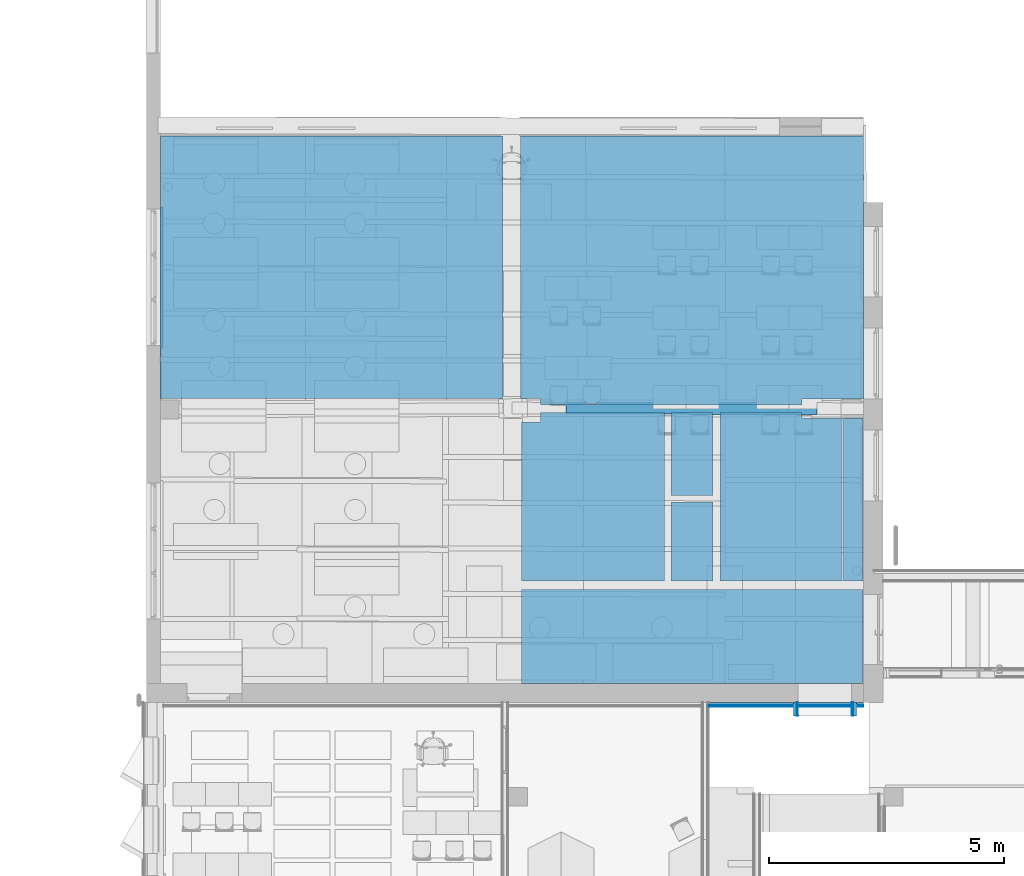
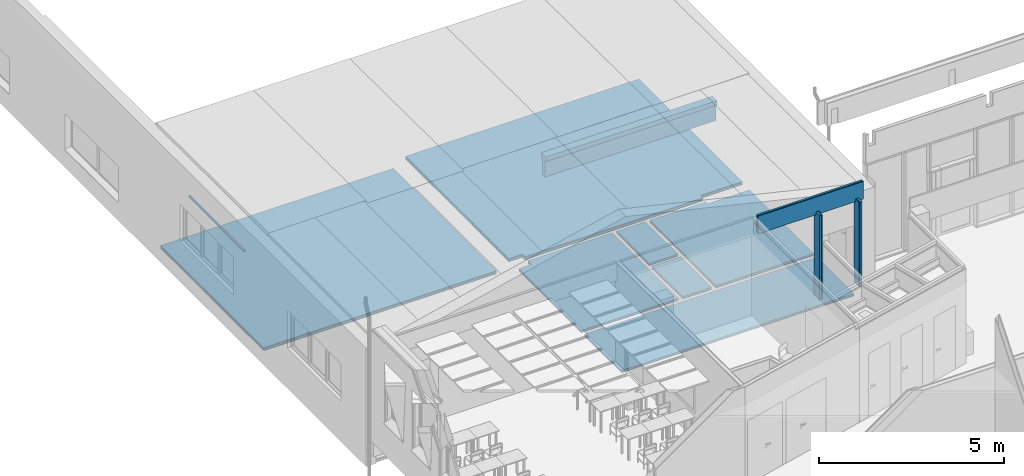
# One storey, part 61 of 153: 21 building element parts, 1 discrete accessory, 7 elements without a shape of their own.
"""IFC2X3 building model written with IfcOpenShell, lengths in millimetres."""

from ifc_helpers import new_model, entity, si_unit, converted_unit, derived_unit, money_unit, direction, frame, origin_with_axes, place, context, subcontext, project, spatial, faceted_brep, material, type_object, element, aggregate, save


model = new_model("IFC2X3")

# Units and contexts
model_context = context("Model", 3, precision=0.01, world=origin_with_axes(), true_north=direction((0.0, 1.0)))
body_context = subcontext(model_context, "Body", "Model", "MODEL_VIEW")
ifc_project = project(units=[si_unit("LENGTHUNIT", "METRE", prefix="MILLI"), si_unit("AREAUNIT", "SQUARE_METRE"), si_unit("VOLUMEUNIT", "CUBIC_METRE"), converted_unit("PLANEANGLEUNIT", "DEGREE", entity("IfcPlaneAngleMeasure", 0.0174532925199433), si_unit("PLANEANGLEUNIT", "RADIAN"), dimensions=[0, 0, 0, 0, 0, 0, 0]), money_unit("EUR"), converted_unit("TIMEUNIT", "Year", entity("IfcTimeMeasure", 31557600.0), si_unit("TIMEUNIT", "SECOND"), dimensions=[0, 0, 1, 0, 0, 0, 0]), si_unit("MASSUNIT", "GRAM", prefix="KILO"), si_unit("THERMODYNAMICTEMPERATUREUNIT", "DEGREE_CELSIUS"), si_unit("LUMINOUSINTENSITYUNIT", "LUMEN"), si_unit("ENERGYUNIT", "JOULE", prefix="MEGA"), derived_unit("THERMALCONDUCTANCEUNIT", [(si_unit("POWERUNIT", "WATT"), 1), (si_unit("LENGTHUNIT", "METRE"), -1), (si_unit("THERMODYNAMICTEMPERATUREUNIT", "KELVIN"), -1)]), derived_unit("SPECIFICHEATCAPACITYUNIT", [(si_unit("ENERGYUNIT", "JOULE"), 1), (si_unit("MASSUNIT", "GRAM", prefix="KILO"), -1), (si_unit("THERMODYNAMICTEMPERATUREUNIT", "KELVIN"), -1)]), derived_unit("MASSDENSITYUNIT", [(si_unit("MASSUNIT", "GRAM", prefix="KILO"), 1), (si_unit("VOLUMEUNIT", "CUBIC_METRE"), -1)])], contexts=[model_context])

# Site, building, storey
site_placement = place(None, frame((0.0, 0.0, 8650.0), z_axis=(0.0, 0.0, 1.0), x_axis=(1.0, 0.0, 0.0)))
site = spatial("IfcSite", under=ifc_project, at=site_placement, Name="43301:001:0844", CompositionType="ELEMENT")
building_placement = place(site_placement, origin_with_axes())
building = spatial("IfcBuilding", under=site, at=building_placement, Name="Kuressaare Ametikooli tuulikute mehaanikute õppekorpus", CompositionType="ELEMENT")
storey_placement = place(building_placement, frame((0.0, 0.0, 4100.0), z_axis=(0.0, 0.0, 1.0), x_axis=(1.0, 0.0, 0.0)))
storey = spatial("IfcBuildingStorey", under=building, at=storey_placement, Name="2.korrus", CompositionType="ELEMENT", Elevation=4100.0)

# Discrete accessory
ifc_material_1 = material(Name="GENEERILINE - KONSTRUKTRIOON")
discrete_accessory_type = type_object("IfcDiscreteAccessoryType", Name="GENEERILINE - KONSTRUKTRIOON 50")
discrete_accessory_placement = place(storey_placement, frame((88258.75644683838, 36335.89501805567, 1560.0), z_axis=(0.0, 0.0, 1.0), x_axis=(1.0, 0.0, 0.0)))
element("IfcDiscreteAccessory", 1, at=discrete_accessory_placement, inside=storey, type_object=discrete_accessory_type, material=ifc_material_1, Name="RK1", context=body_context, shape_type="Brep", body=[
    faceted_brep([(0.0, 0.0, 49.99999999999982), (0.0, 0.0, 0.0), (0.0, -3000.0, 0.0), (0.0, -3000.0, 49.99999999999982), (49.99999999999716, 0.0, 49.99999999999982), (49.99999999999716, 0.0, 0.0), (49.99999999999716, -3000.0, 0.0), (49.99999999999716, -3000.0, 49.99999999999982)], [[[0, 1, 2, 3]], [[4, 5, 1, 0]], [[2, 1, 5, 6]], [[3, 2, 6, 7]], [[4, 0, 3, 7]], [[7, 6, 5, 4]]]),
])

# Wall, building element parts
wall_type_1 = type_object("IfcWallType", Name="SS-2.5* 96", PredefinedType="NOTDEFINED")
wall_1_placement = place(storey_placement, frame((99932.61828844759, 25783.06892395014, 2703.186184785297), z_axis=(0.0, 0.0, 1.0), x_axis=(1.0, 0.0, 0.0)))
wall_1 = element("IfcWall", 2, at=wall_1_placement, inside=storey, type_object=wall_type_1, Name="Sisesein")
ifc_material_2 = material(Name="Kipsplaat")
building_element_part_1_placement = place(wall_1_placement, origin_with_axes())
building_element_part_1 = element("IfcBuildingElementPart", 3, at=building_element_part_1_placement, material=ifc_material_2, Name="Kipsplaat", context=body_context, shape_type="Brep", body=[
    faceted_brep([(3294.893918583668, -81.00000000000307, 587.5265545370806), (3294.893918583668, -66.0000000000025, 587.5265545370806), (0.0, -65.99999999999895, 587.5265545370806), (0.0, -80.99999999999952, 587.5265545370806), (3294.893918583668, -81.00000000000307, 0.0), (3294.893918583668, -66.0000000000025, 0.0), (0.0, -65.99999999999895, 0.0), (0.0, -80.99999999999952, 0.0)], [[[0, 1, 2, 3]], [[0, 4, 5, 1]], [[1, 5, 6, 2]], [[3, 2, 6, 7]], [[4, 0, 3, 7]], [[5, 4, 7, 6]]]),
])
building_element_part_2_placement = place(wall_1_placement, origin_with_axes())
building_element_part_2 = element("IfcBuildingElementPart", 4, at=building_element_part_2_placement, material=ifc_material_2, Name="Kipsplaat", context=body_context, shape_type="Brep", body=[
    faceted_brep([(3294.893918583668, -96.00000000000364, 587.5265545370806), (3294.893918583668, -81.00000000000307, 587.5265545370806), (0.0, -80.99999999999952, 587.5265545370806), (0.0, -96.00000000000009, 587.5265545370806), (3294.893918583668, -96.00000000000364, 0.0), (3294.893918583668, -81.00000000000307, 0.0), (0.0, -80.99999999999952, 0.0), (0.0, -96.00000000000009, 0.0)], [[[0, 1, 2, 3]], [[0, 4, 5, 1]], [[1, 5, 6, 2]], [[3, 2, 6, 7]], [[4, 0, 3, 7]], [[5, 4, 7, 6]]]),
])
ifc_material_3 = material(Name="Soojustus - Mineraalvill pehme")
building_element_part_3_placement = place(wall_1_placement, origin_with_axes())
building_element_part_3 = element("IfcBuildingElementPart", 5, at=building_element_part_3_placement, material=ifc_material_3, Name="Soojustus - Mineraalvill pehme", context=body_context, shape_type="Brep", body=[
    faceted_brep([(0.0, -65.99999999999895, 587.5265545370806), (3294.893918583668, -66.0000000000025, 587.5265545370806), (3294.893918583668, 0.0, 587.5265545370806), (0.0, 0.0, 587.5265545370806), (0.0, -65.99999999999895, 0.0), (3294.893918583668, -66.0000000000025, 0.0), (3294.893918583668, 0.0, 0.0), (0.0, 0.0, 0.0)], [[[0, 1, 2, 3]], [[4, 5, 1, 0]], [[2, 1, 5, 6]], [[3, 2, 6, 7]], [[4, 0, 3, 7]], [[7, 6, 5, 4]]]),
])
aggregate(wall_1, [building_element_part_1, building_element_part_2, building_element_part_3])

wall_type_2 = type_object("IfcWallType", Name="SS-2.4 92", PredefinedType="NOTDEFINED")
wall_2_placement = place(storey_placement, frame((101833.5712199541, 25783.06892395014, 0.0), z_axis=(0.0, 0.0, 1.0), x_axis=(0.001962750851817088, -0.9999980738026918, 0.0)))
wall_2 = element("IfcWall", 6, at=wall_2_placement, inside=storey, type_object=wall_type_2, Name="Sisesein")
ifc_material_4 = material(Name="Plywood")
building_element_part_4_placement = place(wall_2_placement, origin_with_axes())
building_element_part_4 = element("IfcBuildingElementPart", 7, at=building_element_part_4_placement, material=ifc_material_4, Name="Plywood", context=body_context, shape_type="Brep", body=[
    faceted_brep([(288.9998373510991, -25.99999999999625, 2800.0), (288.9998373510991, -12.99999999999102, 2800.0), (0.0, -13.00000000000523, 2800.0), (0.0, -25.99999999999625, 2800.0), (288.9998373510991, -25.99999999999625, 0.0), (288.9998373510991, -12.99999999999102, 0.0), (0.0, -13.00000000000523, 0.0), (0.0, -25.99999999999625, 0.0)], [[[0, 1, 2, 3]], [[0, 4, 5, 1]], [[1, 5, 6, 2]], [[3, 2, 6, 7]], [[4, 0, 3, 7]], [[5, 4, 7, 6]]]),
])
ifc_material_5 = material(Name="Plaster - Gypsum")
building_element_part_5_placement = place(wall_2_placement, origin_with_axes())
building_element_part_5 = element("IfcBuildingElementPart", 8, at=building_element_part_5_placement, material=ifc_material_5, Name="Plaster - Gypsum", context=body_context, shape_type="Brep", body=[
    faceted_brep([(288.9998373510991, -12.99999999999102, 2800.0), (288.9998373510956, 0.0, 2800.0), (0.0, 0.0, 2800.0), (0.0, -13.00000000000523, 2800.0), (288.9998373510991, -12.99999999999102, 0.0), (288.9998373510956, 0.0, 0.0), (0.0, 0.0, 0.0), (0.0, -13.00000000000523, 0.0)], [[[0, 1, 2, 3]], [[0, 4, 5, 1]], [[1, 5, 6, 2]], [[3, 2, 6, 7]], [[4, 0, 3, 7]], [[5, 4, 7, 6]]]),
])

# Wall, building element part
wall_3_placement = place(storey_placement, frame((102983.5712199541, 25783.06892395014, 0.0), z_axis=(0.0, 0.0, 1.0), x_axis=(0.001962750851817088, -0.9999980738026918, 0.0)))
wall_3 = element("IfcWall", 9, at=wall_3_placement, inside=storey, type_object=wall_type_2, Name="Sisesein")
ifc_material_6 = material(Name="Air Space - Frame")
building_element_part_6_placement = place(wall_3_placement, origin_with_axes())
building_element_part_6 = element("IfcBuildingElementPart", 10, at=building_element_part_6_placement, material=ifc_material_6, Name="Air Space - Frame", context=body_context, shape_type="Brep", body=[
    faceted_brep([(288.9998373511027, 91.99999999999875, 0.0), (288.9998373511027, 25.99999999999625, 0.0), (0.0, 25.99999999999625, 0.0), (0.0, 91.99999999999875, 0.0), (288.9998373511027, 91.99999999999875, 2800.0), (288.9998373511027, 25.99999999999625, 2800.0), (0.0, 25.99999999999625, 2800.0), (0.0, 91.99999999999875, 2800.0)], [[[0, 1, 2, 3]], [[0, 4, 5, 1]], [[1, 5, 6, 2]], [[3, 2, 6, 7]], [[4, 0, 3, 7]], [[5, 4, 7, 6]]]),
])

# Building element part
building_element_part_7_placement = place(wall_2_placement, origin_with_axes())
building_element_part_7 = element("IfcBuildingElementPart", 11, at=building_element_part_7_placement, material=ifc_material_6, Name="Air Space - Frame", context=body_context, shape_type="Brep", body=[
    faceted_brep([(288.9998373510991, -91.99999999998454, 2800.0), (288.9998373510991, -25.99999999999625, 2800.0), (0.0, -25.99999999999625, 2800.0), (0.0, -91.99999999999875, 2800.0), (288.9998373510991, -91.99999999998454, 0.0), (288.9998373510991, -25.99999999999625, 0.0), (0.0, -25.99999999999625, 0.0), (0.0, -91.99999999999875, 0.0)], [[[0, 1, 2, 3]], [[0, 4, 5, 1]], [[1, 5, 6, 2]], [[3, 2, 6, 7]], [[4, 0, 3, 7]], [[5, 4, 7, 6]]]),
])

aggregate(wall_2, [building_element_part_4, building_element_part_5, building_element_part_7])

building_element_part_8_placement = place(wall_3_placement, origin_with_axes())
building_element_part_8 = element("IfcBuildingElementPart", 12, at=building_element_part_8_placement, material=ifc_material_4, Name="Plywood", context=body_context, shape_type="Brep", body=[
    faceted_brep([(288.9998373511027, 25.99999999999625, 0.0), (288.9998373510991, 13.00000000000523, 0.0), (0.0, 13.00000000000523, 0.0), (0.0, 25.99999999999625, 0.0), (288.9998373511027, 25.99999999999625, 2800.0), (288.9998373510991, 13.00000000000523, 2800.0), (0.0, 13.00000000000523, 2800.0), (0.0, 25.99999999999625, 2800.0)], [[[0, 1, 2, 3]], [[0, 4, 5, 1]], [[1, 5, 6, 2]], [[3, 2, 6, 7]], [[4, 0, 3, 7]], [[5, 4, 7, 6]]]),
])

building_element_part_9_placement = place(wall_3_placement, origin_with_axes())
building_element_part_9 = element("IfcBuildingElementPart", 13, at=building_element_part_9_placement, material=ifc_material_5, Name="Plaster - Gypsum", context=body_context, shape_type="Brep", body=[
    faceted_brep([(288.9998373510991, 13.00000000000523, 0.0), (288.9998373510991, 0.0, 0.0), (0.0, 0.0, 0.0), (0.0, 13.00000000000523, 0.0), (288.9998373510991, 13.00000000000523, 2800.0), (288.9998373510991, 0.0, 2800.0), (0.0, 0.0, 2800.0), (0.0, 13.00000000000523, 2800.0)], [[[0, 1, 2, 3]], [[0, 4, 5, 1]], [[1, 5, 6, 2]], [[3, 2, 6, 7]], [[4, 0, 3, 7]], [[5, 4, 7, 6]]]),
])

aggregate(wall_3, [building_element_part_6, building_element_part_8, building_element_part_9])

# Slab, building element parts
slab_type = type_object("IfcSlabType", Name="VL3.1 109", PredefinedType="NOTDEFINED")
slab_1_placement = place(storey_placement, frame((95927.90111654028, 32254.84555360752, -798.9999999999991), z_axis=(0.0, 0.0, 1.0), x_axis=(1.0, 0.0, 0.0)))
slab_1 = element("IfcSlab", 14, at=slab_1_placement, inside=storey, type_object=slab_type, PredefinedType="NOTDEFINED")
ifc_material_7 = material(Name="Soojustus - Mineraalvill jäik")
building_element_part_10_placement = place(slab_1_placement, origin_with_axes())
building_element_part_10 = element("IfcBuildingElementPart", 15, at=building_element_part_10_placement, material=ifc_material_7, Name="Soojustus - Mineraalvill jäik", context=body_context, shape_type="Brep", body=[
    faceted_brep([(418.6829031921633, 6.184473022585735e-05, 79.00000000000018), (418.6829031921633, 6.184473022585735e-05, 109.0), (0.0, 0.0, 109.0), (0.0, 0.0, 79.00000000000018), (418.6829239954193, -140.8359928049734, 79.00000000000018), (418.6829239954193, -140.8359928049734, 109.0), (5991.860582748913, -140.8360546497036, 109.0), (5991.860582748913, -10.83605761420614, 109.0), (7299.61109049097, -10.83605761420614, 109.0), (7299.61109049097, 5590.926111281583, 109.0), (0.0, 5590.926111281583, 109.0), (0.0, 5590.926111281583, 79.00000000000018), (7299.61109049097, 5590.926111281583, 79.00000000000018), (7299.61109049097, -10.83605761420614, 79.00000000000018), (5991.860582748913, -10.83605761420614, 79.00000000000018), (5991.860582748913, -140.8360546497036, 79.00000000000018)], [[[0, 1, 2, 3]], [[4, 5, 1, 0]], [[2, 1, 5, 6, 7, 8, 9, 10]], [[3, 2, 10, 11]], [[3, 11, 12, 13, 14, 15, 4, 0]], [[15, 6, 5, 4]], [[14, 7, 6, 15]], [[13, 8, 7, 14]], [[12, 9, 8, 13]], [[11, 10, 9, 12]]]),
])
ifc_material_8 = material(Name="Õhkvahe - Raam")
building_element_part_11_placement = place(slab_1_placement, origin_with_axes())
building_element_part_11 = element("IfcBuildingElementPart", 16, at=building_element_part_11_placement, material=ifc_material_8, Name="Õhkvahe - Raam", context=body_context, shape_type="Brep", body=[
    faceted_brep([(418.6829031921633, 6.184473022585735e-05, 25.00000000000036), (418.6829031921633, 6.184473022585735e-05, 79.00000000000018), (0.0, 0.0, 79.00000000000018), (0.0, 0.0, 25.00000000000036), (418.6829239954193, -140.8359928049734, 25.00000000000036), (418.6829239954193, -140.8359928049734, 79.00000000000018), (5991.860582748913, -140.8360546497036, 79.00000000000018), (5991.860582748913, -10.83605761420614, 79.00000000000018), (7299.61109049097, -10.83605761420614, 79.00000000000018), (7299.61109049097, 5590.926111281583, 79.00000000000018), (0.0, 5590.926111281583, 79.00000000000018), (0.0, 5590.926111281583, 25.00000000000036), (7299.61109049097, 5590.926111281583, 25.00000000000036), (7299.61109049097, -10.83605761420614, 25.00000000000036), (5991.860582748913, -10.83605761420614, 25.00000000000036), (5991.860582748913, -140.8360546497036, 25.00000000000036)], [[[0, 1, 2, 3]], [[4, 5, 1, 0]], [[2, 1, 5, 6, 7, 8, 9, 10]], [[3, 2, 10, 11]], [[3, 11, 12, 13, 14, 15, 4, 0]], [[15, 6, 5, 4]], [[14, 7, 6, 15]], [[13, 8, 7, 14]], [[12, 9, 8, 13]], [[11, 10, 9, 12]]]),
])
building_element_part_12_placement = place(slab_1_placement, origin_with_axes())
building_element_part_12 = element("IfcBuildingElementPart", 17, at=building_element_part_12_placement, material=ifc_material_2, Name="Kipsplaat", context=body_context, shape_type="Brep", body=[
    faceted_brep([(418.6829031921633, 6.184473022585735e-05, 12.49999999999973), (418.6829031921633, 6.184473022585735e-05, 24.99999999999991), (0.0, 0.0, 24.99999999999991), (0.0, 0.0, 12.49999999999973), (418.6829239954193, -140.8359928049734, 12.49999999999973), (418.6829239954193, -140.8359928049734, 24.99999999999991), (5991.860582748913, -140.8360546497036, 24.99999999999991), (5991.860582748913, -10.83605761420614, 24.99999999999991), (7299.61109049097, -10.83605761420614, 24.99999999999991), (7299.61109049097, 5590.926111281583, 24.99999999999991), (0.0, 5590.926111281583, 24.99999999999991), (0.0, 5590.926111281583, 12.49999999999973), (7299.61109049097, 5590.926111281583, 12.49999999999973), (7299.61109049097, -10.83605761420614, 12.49999999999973), (5991.860582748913, -10.83605761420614, 12.49999999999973), (5991.860582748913, -140.8360546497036, 12.49999999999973)], [[[0, 1, 2, 3]], [[4, 5, 1, 0]], [[2, 1, 5, 6, 7, 8, 9, 10]], [[3, 2, 10, 11]], [[3, 11, 12, 13, 14, 15, 4, 0]], [[15, 6, 5, 4]], [[14, 7, 6, 15]], [[13, 8, 7, 14]], [[12, 9, 8, 13]], [[11, 10, 9, 12]]]),
])
building_element_part_13_placement = place(slab_1_placement, origin_with_axes())
building_element_part_13 = element("IfcBuildingElementPart", 18, at=building_element_part_13_placement, material=ifc_material_2, Name="Kipsplaat", context=body_context, shape_type="Brep", body=[
    faceted_brep([(0.0, 0.0, 0.0), (418.6829031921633, 6.184473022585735e-05, 0.0), (418.6829031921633, 6.184473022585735e-05, 12.50000000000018), (0.0, 0.0, 12.50000000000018), (0.0, 5590.926111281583, 0.0), (7299.61109049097, 5590.926111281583, 0.0), (7299.61109049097, -10.83605761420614, 0.0), (5991.860582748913, -10.83605761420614, 0.0), (5991.860582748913, -140.8360546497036, 0.0), (418.6829239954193, -140.8359928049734, 0.0), (418.6829239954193, -140.8359928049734, 12.50000000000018), (5991.860582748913, -140.8360546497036, 12.50000000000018), (5991.860582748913, -10.83605761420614, 12.50000000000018), (7299.61109049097, -10.83605761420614, 12.50000000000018), (7299.61109049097, 5590.926111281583, 12.50000000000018), (0.0, 5590.926111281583, 12.50000000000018)], [[[0, 1, 2, 3]], [[0, 4, 5, 6, 7, 8, 9, 1]], [[1, 9, 10, 2]], [[3, 2, 10, 11, 12, 13, 14, 15]], [[4, 0, 3, 15]], [[5, 4, 15, 14]], [[6, 5, 14, 13]], [[7, 6, 13, 12]], [[8, 7, 12, 11]], [[9, 8, 11, 10]]]),
])
aggregate(slab_1, [building_element_part_10, building_element_part_11, building_element_part_12, building_element_part_13])

slab_2_placement = place(storey_placement, frame((95947.90111654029, 26183.07560502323, -798.9999999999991), z_axis=(0.0, 0.0, 1.0), x_axis=(1.0, 0.0, 0.0)))
slab_2 = element("IfcSlab", 19, at=slab_2_placement, inside=storey, type_object=slab_type, PredefinedType="NOTDEFINED")
building_element_part_14_placement = place(slab_2_placement, origin_with_axes())
building_element_part_14 = element("IfcBuildingElementPart", 20, at=building_element_part_14_placement, material=ifc_material_8, Name="Õhkvahe - Raam", context=body_context, shape_type="Brep", body=[
    faceted_brep([(7273.250241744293, 1999.993318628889, 25.00000000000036), (7273.250241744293, 1999.993318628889, 79.00000000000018), (7273.250241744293, 0.0, 79.00000000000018), (7273.250241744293, 0.0, 25.00000000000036), (0.0, 1999.993318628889, 79.00000000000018), (0.0, 1999.993318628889, 25.00000000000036), (0.0, 0.0, 79.00000000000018), (0.0, 0.0, 25.00000000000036)], [[[0, 1, 2, 3]], [[4, 1, 0, 5]], [[1, 4, 6, 2]], [[7, 3, 2, 6]], [[5, 0, 3, 7]], [[4, 5, 7, 6]]]),
    faceted_brep([(3039.805547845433, 2189.99331862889, 79.00000000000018), (3039.805547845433, 5770.933887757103, 79.00000000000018), (398.6829239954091, 5770.933912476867, 79.00000000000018), (398.6829239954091, 5571.77001042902, 79.00000000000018), (0.0, 5571.77001042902, 79.00000000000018), (0.0, 2189.99331862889, 79.00000000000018), (3039.805547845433, 5770.933887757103, 25.00000000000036), (3039.805547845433, 2189.99331862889, 25.00000000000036), (398.6829239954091, 5770.933912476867, 25.00000000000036), (398.6829239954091, 5571.77001042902, 25.00000000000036), (0.0, 5571.77001042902, 25.00000000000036), (0.0, 2189.99331862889, 25.00000000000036)], [[[0, 1, 2, 3, 4, 5]], [[6, 1, 0, 7]], [[1, 6, 8, 2]], [[8, 9, 3, 2]], [[9, 10, 4, 3]], [[11, 5, 4, 10]], [[7, 0, 5, 11]], [[6, 7, 11, 10, 9, 8]]]),
    faceted_brep([(4079.80554784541, 3864.896725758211, 24.99999999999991), (4079.80554784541, 3864.896725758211, 79.00000000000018), (4079.80554784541, 2189.99331862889, 79.00000000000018), (4079.80554784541, 2189.99331862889, 24.99999999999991), (3179.805547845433, 3864.896725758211, 79.00000000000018), (3179.805547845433, 3864.896725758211, 24.99999999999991), (3179.805547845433, 2189.99331862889, 79.00000000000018), (3179.805547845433, 2189.99331862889, 24.99999999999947)], [[[0, 1, 2, 3]], [[4, 1, 0, 5]], [[1, 4, 6, 2]], [[3, 2, 6, 7]], [[5, 0, 3, 7]], [[4, 5, 7, 6]]]),
    faceted_brep([(4219.805547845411, 5770.933889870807, 25.00000000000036), (4219.805547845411, 5770.933889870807, 79.00000000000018), (5971.860583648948, 5770.933889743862, 79.00000000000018), (5971.860583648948, 5770.933889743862, 25.00000000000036), (4219.805547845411, 2189.99331862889, 79.00000000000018), (4219.805547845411, 2189.99331862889, 24.99999999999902), (7273.250241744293, 2189.99331862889, 79.00000000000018), (7273.250241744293, 5660.933909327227, 79.00000000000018), (5971.860585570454, 5660.933886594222, 79.00000000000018), (5971.860585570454, 5660.933886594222, 25.00000000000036), (7273.250241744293, 5660.933909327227, 25.00000000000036), (7273.250241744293, 2189.99331862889, 25.00000000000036)], [[[0, 1, 2, 3]], [[4, 1, 0, 5]], [[1, 4, 6, 7, 8, 2]], [[9, 3, 2, 8]], [[5, 0, 3, 9, 10, 11]], [[4, 5, 11, 6]], [[6, 11, 10, 7]], [[10, 9, 8, 7]]]),
    faceted_brep([(3179.805547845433, 4004.896725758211, 79.00000000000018), (4079.80554784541, 4004.896725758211, 79.00000000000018), (4079.80554784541, 5770.933889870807, 79.00000000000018), (3179.805547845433, 5770.933887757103, 79.00000000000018), (4079.80554784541, 4004.896725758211, 24.99999999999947), (3179.805547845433, 4004.896725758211, 24.99999999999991), (4079.80554784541, 5770.933889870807, 25.00000000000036), (3179.805547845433, 5770.933887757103, 25.00000000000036)], [[[0, 1, 2, 3]], [[4, 1, 0, 5]], [[1, 4, 6, 2]], [[2, 6, 7, 3]], [[5, 0, 3, 7]], [[4, 5, 7, 6]]]),
])
building_element_part_15_placement = place(slab_2_placement, origin_with_axes())
building_element_part_15 = element("IfcBuildingElementPart", 21, at=building_element_part_15_placement, material=ifc_material_2, Name="Kipsplaat", context=body_context, shape_type="Brep", body=[
    faceted_brep([(7273.250241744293, 1999.993318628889, 12.49999999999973), (7273.250241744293, 1999.993318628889, 24.99999999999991), (7273.250241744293, 0.0, 24.99999999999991), (7273.250241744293, 0.0, 12.49999999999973), (0.0, 1999.993318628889, 24.99999999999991), (0.0, 1999.993318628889, 12.49999999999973), (0.0, 0.0, 24.99999999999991), (0.0, 0.0, 12.49999999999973)], [[[0, 1, 2, 3]], [[4, 1, 0, 5]], [[1, 4, 6, 2]], [[7, 3, 2, 6]], [[5, 0, 3, 7]], [[4, 5, 7, 6]]]),
    faceted_brep([(3039.805547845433, 2189.99331862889, 24.99999999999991), (3039.805547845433, 5770.933887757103, 24.99999999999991), (398.6829239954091, 5770.933912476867, 24.99999999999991), (398.6829239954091, 5571.77001042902, 24.99999999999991), (0.0, 5571.77001042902, 24.99999999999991), (0.0, 2189.99331862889, 24.99999999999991), (3039.805547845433, 5770.933887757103, 12.49999999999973), (3039.805547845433, 2189.99331862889, 12.49999999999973), (398.6829239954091, 5770.933912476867, 12.49999999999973), (398.6829239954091, 5571.77001042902, 12.49999999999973), (0.0, 5571.77001042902, 12.49999999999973), (0.0, 2189.99331862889, 12.49999999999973)], [[[0, 1, 2, 3, 4, 5]], [[6, 1, 0, 7]], [[1, 6, 8, 2]], [[8, 9, 3, 2]], [[9, 10, 4, 3]], [[11, 5, 4, 10]], [[7, 0, 5, 11]], [[6, 7, 11, 10, 9, 8]]]),
    faceted_brep([(4079.80554784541, 3864.896725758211, 12.49999999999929), (4079.80554784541, 3864.896725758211, 24.99999999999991), (4079.80554784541, 2189.99331862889, 24.99999999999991), (4079.80554784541, 2189.99331862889, 12.49999999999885), (3179.805547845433, 3864.896725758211, 24.99999999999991), (3179.805547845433, 3864.896725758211, 12.49999999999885), (3179.805547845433, 2189.99331862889, 24.99999999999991), (3179.805547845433, 2189.99331862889, 12.49999999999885)], [[[0, 1, 2, 3]], [[4, 1, 0, 5]], [[1, 4, 6, 2]], [[3, 2, 6, 7]], [[5, 0, 3, 7]], [[4, 5, 7, 6]]]),
    faceted_brep([(6809.611095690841, 2189.99331862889, 24.99999999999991), (6809.611095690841, 5660.933884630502, 24.99999999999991), (5971.860585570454, 5660.933886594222, 24.99999999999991), (5971.860583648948, 5770.933889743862, 24.99999999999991), (4219.805547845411, 5770.933889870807, 24.99999999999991), (4219.805547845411, 2189.99331862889, 24.99999999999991), (6809.611095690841, 5660.933884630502, 12.49999999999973), (6809.611095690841, 2189.99331862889, 12.49999999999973), (5971.860585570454, 5660.933886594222, 12.49999999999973), (5971.860583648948, 5770.933889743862, 12.49999999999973), (4219.805547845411, 5770.933889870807, 12.49999999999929), (4219.805547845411, 2189.99331862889, 12.4999999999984)], [[[0, 1, 2, 3, 4, 5]], [[6, 1, 0, 7]], [[1, 6, 8, 2]], [[8, 9, 3, 2]], [[10, 4, 3, 9]], [[5, 4, 10, 11]], [[7, 0, 5, 11]], [[6, 7, 11, 10, 9, 8]]]),
    faceted_brep([(3179.805547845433, 4004.896725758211, 24.99999999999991), (4079.80554784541, 4004.896725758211, 24.99999999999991), (4079.80554784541, 5770.933889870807, 24.99999999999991), (3179.805547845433, 5770.933887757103, 24.99999999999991), (4079.80554784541, 4004.896725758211, 12.4999999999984), (3179.805547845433, 4004.896725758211, 12.49999999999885), (4079.80554784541, 5770.933889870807, 12.49999999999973), (3179.805547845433, 5770.933887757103, 12.49999999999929)], [[[0, 1, 2, 3]], [[4, 1, 0, 5]], [[1, 4, 6, 2]], [[2, 6, 7, 3]], [[5, 0, 3, 7]], [[4, 5, 7, 6]]]),
    faceted_brep([(6859.611095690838, 5660.933884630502, 12.49999999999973), (6859.611095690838, 5660.933884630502, 24.99999999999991), (7273.250241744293, 5660.933909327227, 24.99999999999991), (7273.250241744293, 5660.933909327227, 12.49999999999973), (6859.611095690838, 2189.99331862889, 24.99999999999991), (6859.611095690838, 2189.99331862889, 12.49999999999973), (7273.250241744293, 2189.99331862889, 24.99999999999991), (7273.250241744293, 2189.99331862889, 12.49999999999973)], [[[0, 1, 2, 3]], [[4, 1, 0, 5]], [[1, 4, 6, 2]], [[6, 7, 3, 2]], [[5, 0, 3, 7]], [[4, 5, 7, 6]]]),
])
building_element_part_16_placement = place(slab_2_placement, origin_with_axes())
building_element_part_16 = element("IfcBuildingElementPart", 22, at=building_element_part_16_placement, material=ifc_material_2, Name="Kipsplaat", context=body_context, shape_type="Brep", body=[
    faceted_brep([(7273.250241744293, 1999.993318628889, 0.0), (7273.250241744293, 1999.993318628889, 12.50000000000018), (7273.250241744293, 0.0, 12.50000000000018), (7273.250241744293, 0.0, 0.0), (0.0, 1999.993318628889, 12.50000000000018), (0.0, 1999.993318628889, 0.0), (0.0, 0.0, 12.50000000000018), (0.0, 0.0, 0.0)], [[[0, 1, 2, 3]], [[4, 1, 0, 5]], [[1, 4, 6, 2]], [[6, 7, 3, 2]], [[5, 0, 3, 7]], [[4, 5, 7, 6]]]),
    faceted_brep([(3039.805547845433, 2189.99331862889, 12.50000000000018), (3039.805547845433, 5770.933887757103, 12.50000000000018), (398.6829239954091, 5770.933912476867, 12.50000000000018), (398.6829239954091, 5571.77001042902, 12.50000000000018), (0.0, 5571.77001042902, 12.50000000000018), (0.0, 2189.99331862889, 12.50000000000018), (3039.805547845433, 5770.933887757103, 0.0), (3039.805547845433, 2189.99331862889, 0.0), (398.6829239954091, 5770.933912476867, 0.0), (398.6829239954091, 5571.77001042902, 0.0), (0.0, 5571.77001042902, 0.0), (0.0, 2189.99331862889, 0.0)], [[[0, 1, 2, 3, 4, 5]], [[6, 1, 0, 7]], [[1, 6, 8, 2]], [[2, 8, 9, 3]], [[3, 9, 10, 4]], [[11, 5, 4, 10]], [[7, 0, 5, 11]], [[6, 7, 11, 10, 9, 8]]]),
    faceted_brep([(4079.80554784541, 3864.896725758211, 0.0), (4079.80554784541, 3864.896725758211, 12.50000000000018), (4079.80554784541, 2189.99331862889, 12.50000000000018), (4079.80554784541, 2189.99331862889, 0.0), (3179.805547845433, 3864.896725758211, 12.50000000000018), (3179.805547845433, 3864.896725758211, 0.0), (3179.805547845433, 2189.99331862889, 12.50000000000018), (3179.805547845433, 2189.99331862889, 0.0)], [[[0, 1, 2, 3]], [[4, 1, 0, 5]], [[1, 4, 6, 2]], [[3, 2, 6, 7]], [[5, 0, 3, 7]], [[4, 5, 7, 6]]]),
    faceted_brep([(6809.611095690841, 2189.99331862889, 12.50000000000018), (6809.611095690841, 5660.933884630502, 12.50000000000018), (5971.860585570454, 5660.933886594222, 12.50000000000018), (5971.860583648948, 5770.933889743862, 12.50000000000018), (4219.805547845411, 5770.933889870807, 12.50000000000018), (4219.805547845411, 2189.99331862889, 12.50000000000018), (6809.611095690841, 5660.933884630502, 0.0), (6809.611095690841, 2189.99331862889, 0.0), (5971.860585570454, 5660.933886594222, 0.0), (5971.860583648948, 5770.933889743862, 0.0), (4219.805547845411, 5770.933889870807, 0.0), (4219.805547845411, 2189.99331862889, 0.0)], [[[0, 1, 2, 3, 4, 5]], [[6, 1, 0, 7]], [[1, 6, 8, 2]], [[2, 8, 9, 3]], [[10, 4, 3, 9]], [[5, 4, 10, 11]], [[7, 0, 5, 11]], [[6, 7, 11, 10, 9, 8]]]),
    faceted_brep([(3179.805547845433, 4004.896725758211, 12.50000000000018), (4079.80554784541, 4004.896725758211, 12.50000000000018), (4079.80554784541, 5770.933889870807, 12.50000000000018), (3179.805547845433, 5770.933887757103, 12.50000000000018), (4079.80554784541, 4004.896725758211, 0.0), (3179.805547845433, 4004.896725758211, 0.0), (4079.80554784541, 5770.933889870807, 0.0), (3179.805547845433, 5770.933887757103, 0.0)], [[[0, 1, 2, 3]], [[4, 1, 0, 5]], [[1, 4, 6, 2]], [[2, 6, 7, 3]], [[5, 0, 3, 7]], [[4, 5, 7, 6]]]),
    faceted_brep([(6859.611095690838, 5660.933884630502, 0.0), (6859.611095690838, 5660.933884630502, 12.50000000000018), (7273.250241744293, 5660.933909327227, 12.50000000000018), (7273.250241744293, 5660.933909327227, 0.0), (6859.611095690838, 2189.99331862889, 12.50000000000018), (6859.611095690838, 2189.99331862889, 0.0), (7273.250241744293, 2189.99331862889, 12.50000000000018), (7273.250241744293, 2189.99331862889, 0.0)], [[[0, 1, 2, 3]], [[4, 1, 0, 5]], [[1, 4, 6, 2]], [[6, 7, 3, 2]], [[5, 0, 3, 7]], [[4, 5, 7, 6]]]),
])
aggregate(slab_2, [building_element_part_14, building_element_part_15, building_element_part_16])

slab_3_placement = place(storey_placement, frame((88258.75644683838, 32257.74467108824, -1065.947478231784), z_axis=(0.0, 0.0, 1.0), x_axis=(1.0, 0.0, 0.0)))
slab_3 = element("IfcSlab", 23, at=slab_3_placement, inside=storey, type_object=slab_type, PredefinedType="NOTDEFINED")
building_element_part_17_placement = place(slab_3_placement, origin_with_axes())
building_element_part_17 = element("IfcBuildingElementPart", 24, at=building_element_part_17_placement, material=ifc_material_7, Name="Soojustus - Mineraalvill jäik", context=body_context, shape_type="Brep", body=[
    faceted_brep([(7289.144591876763, 0.0, 79.00000000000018), (7289.144591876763, 0.0, 109.0), (0.0, 0.0, 109.0), (0.0, 0.0, 79.00000000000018), (7289.144591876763, 5588.027043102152, 79.00000000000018), (7289.144591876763, 5588.027043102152, 109.0), (0.0, 5588.027043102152, 109.0), (0.0, 5588.027043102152, 79.00000000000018)], [[[0, 1, 2, 3]], [[4, 5, 1, 0]], [[2, 1, 5, 6]], [[3, 2, 6, 7]], [[3, 7, 4, 0]], [[7, 6, 5, 4]]]),
])
building_element_part_18_placement = place(slab_3_placement, origin_with_axes())
building_element_part_18 = element("IfcBuildingElementPart", 25, at=building_element_part_18_placement, material=ifc_material_8, Name="Õhkvahe - Raam", context=body_context, shape_type="Brep", body=[
    faceted_brep([(7289.144591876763, 0.0, 25.00000000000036), (7289.144591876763, 0.0, 79.00000000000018), (0.0, 0.0, 79.00000000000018), (0.0, 0.0, 25.00000000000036), (7289.144591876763, 5588.027043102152, 25.00000000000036), (7289.144591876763, 5588.027043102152, 79.00000000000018), (0.0, 5588.027043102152, 79.00000000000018), (0.0, 5588.027043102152, 25.00000000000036)], [[[0, 1, 2, 3]], [[4, 5, 1, 0]], [[2, 1, 5, 6]], [[3, 2, 6, 7]], [[3, 7, 4, 0]], [[7, 6, 5, 4]]]),
])
building_element_part_19_placement = place(slab_3_placement, origin_with_axes())
building_element_part_19 = element("IfcBuildingElementPart", 26, at=building_element_part_19_placement, material=ifc_material_2, Name="Kipsplaat", context=body_context, shape_type="Brep", body=[
    faceted_brep([(7289.144591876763, 0.0, 12.49999999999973), (7289.144591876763, 0.0, 24.99999999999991), (0.0, 0.0, 24.99999999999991), (0.0, 0.0, 12.49999999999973), (7289.144591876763, 5588.027043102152, 12.49999999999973), (7289.144591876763, 5588.027043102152, 24.99999999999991), (0.0, 5588.027043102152, 24.99999999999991), (0.0, 5588.027043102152, 12.49999999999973)], [[[0, 1, 2, 3]], [[4, 5, 1, 0]], [[2, 1, 5, 6]], [[3, 2, 6, 7]], [[3, 7, 4, 0]], [[7, 6, 5, 4]]]),
])
building_element_part_20_placement = place(slab_3_placement, origin_with_axes())
building_element_part_20 = element("IfcBuildingElementPart", 27, at=building_element_part_20_placement, material=ifc_material_2, Name="Kipsplaat", context=body_context, shape_type="Brep", body=[
    faceted_brep([(0.0, 0.0, 0.0), (7289.144591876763, 0.0, 0.0), (7289.144591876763, 0.0, 12.50000000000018), (0.0, 0.0, 12.50000000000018), (0.0, 5588.027043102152, 0.0), (7289.144591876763, 5588.027043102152, 0.0), (7289.144591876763, 5588.027043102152, 12.50000000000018), (0.0, 5588.027043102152, 12.50000000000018)], [[[0, 1, 2, 3]], [[0, 4, 5, 1]], [[1, 5, 6, 2]], [[3, 2, 6, 7]], [[4, 0, 3, 7]], [[5, 4, 7, 6]]]),
])
aggregate(slab_3, [building_element_part_17, building_element_part_18, building_element_part_19, building_element_part_20])

# Beam, building element part
beam_type = type_object("IfcBeamType", Name="Various Structures - 5 Segments - 250 x 700 x 7480 (322+828+5345+505+480)", PredefinedType="NOTDEFINED")
beam_placement = place(storey_placement, frame((95747.90111654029, 32051.05889258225, 2530.0), z_axis=(0.0, 0.0, 1.0), x_axis=(-0.001658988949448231, -0.999998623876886, 0.0)))
beam = element("IfcBeam", 28, at=beam_placement, inside=storey, type_object=beam_type)
ifc_material_9 = material(Name="Raudbetoon")
building_element_part_21_placement = place(beam_placement, origin_with_axes())
building_element_part_21 = element("IfcBuildingElementPart", 29, at=building_element_part_21_placement, material=ifc_material_9, Name="Raudbetoon", context=body_context, shape_type="Brep", body=[
    faceted_brep([(65.00000000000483, 1149.792619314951, -700.0000000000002), (65.00000000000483, 6494.621383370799, -700.0000000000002), (65.00000000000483, 6494.621383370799, -164.4012678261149), (65.00000000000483, 1149.792619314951, -164.4012678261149), (-64.99999999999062, 1149.792619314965, -700.0000000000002), (-64.99999999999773, 6494.621383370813, -700.0000000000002), (-64.99999999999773, 6494.621383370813, -164.4012678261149), (-125.0052826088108, 6494.621383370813, -150.0000000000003), (-125.0055545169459, 6494.621383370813, 0.0), (125.0055545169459, 6494.621383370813, 0.0), (125.0052826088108, 6494.621383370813, -150.0000000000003), (125.0052826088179, 1149.792619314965, -150.0000000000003), (125.0055545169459, 1149.792619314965, 0.0), (-125.0055545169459, 1149.792619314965, 0.0), (-125.0052826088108, 1149.792619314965, -150.0000000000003), (-64.99999999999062, 1149.792619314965, -164.4012678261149)], [[[0, 1, 2, 3]], [[4, 5, 1, 0]], [[2, 1, 5, 6, 7, 8, 9, 10]], [[3, 2, 10, 11]], [[4, 0, 3, 11, 12, 13, 14, 15]], [[15, 6, 5, 4]], [[14, 7, 6, 15]], [[13, 8, 7, 14]], [[12, 9, 8, 13]], [[11, 10, 9, 12]]]),
])
aggregate(beam, [building_element_part_21])

save(model, "model.ifc")
